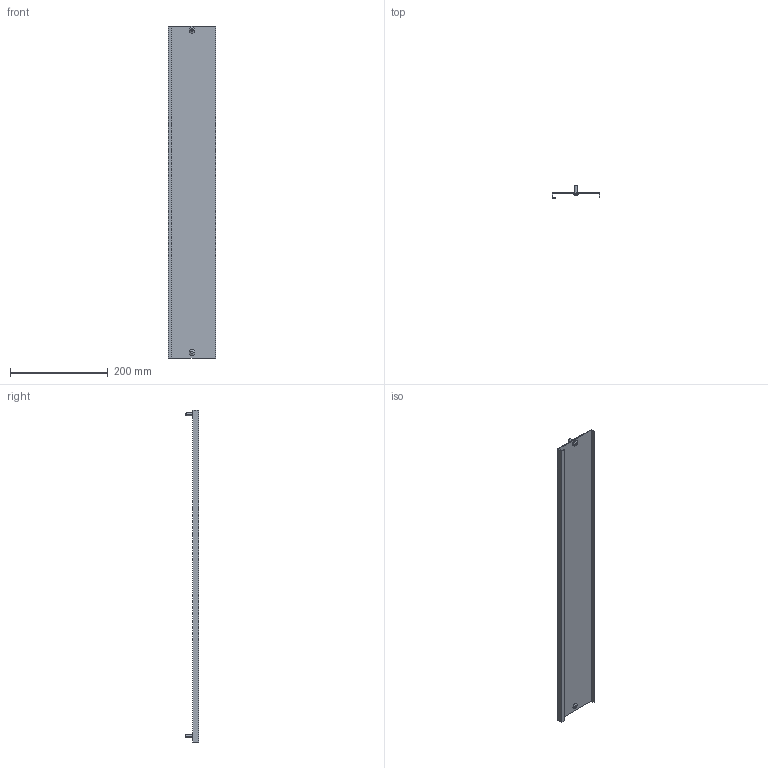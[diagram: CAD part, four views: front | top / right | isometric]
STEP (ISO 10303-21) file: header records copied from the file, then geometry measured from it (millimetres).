
FILE_DESCRIPTION (( 'STEP AP214' ), '1' );
FILE_NAME ('FO-00-PVS-010-080 Ïëàñòðîí ãëóõîé âíóòðåííèé 100õ800.STEP', '2025-09-29T19:34:28', ( '' ), ( '' ), 'SwSTEP 2.0', 'SolidWorks 2023', '' );
FILE_SCHEMA (( 'AUTOMOTIVE_DESIGN' ));
Length unit declared in the file: millimetre
Products named in the file (3): FO-00-PVS-010-080 Пластрон глухой внутренний 100х800; Винт М6х16 IEK
Assembly tree (3 placements, depth 2):
  FO-00-PVS-010-080 Пластрон глухой внутренний 100х800
    FO-00-PVS-010-080 Пластрон глухой внутренний 100х800
    Винт М6х16 IEK  x2
Bounding box: 98 x 28.5 x 679 mm (x, y, z)
Volume: 127716.3 mm3; surface area: 171992.2 mm2
Topology: 3 solids, 3 shells, 86 faces, 226 edges, 148 vertices
Faces by surface type: cylinder 44, plane 32, cone 6, bspline 4
Entity records: 2002 total; most frequent: CARTESIAN_POINT 426, ORIENTED_EDGE 316, DIRECTION 308, EDGE_CURVE 158, AXIS2_PLACEMENT_3D 104, VERTEX_POINT 104, LINE 100, VECTOR 100
